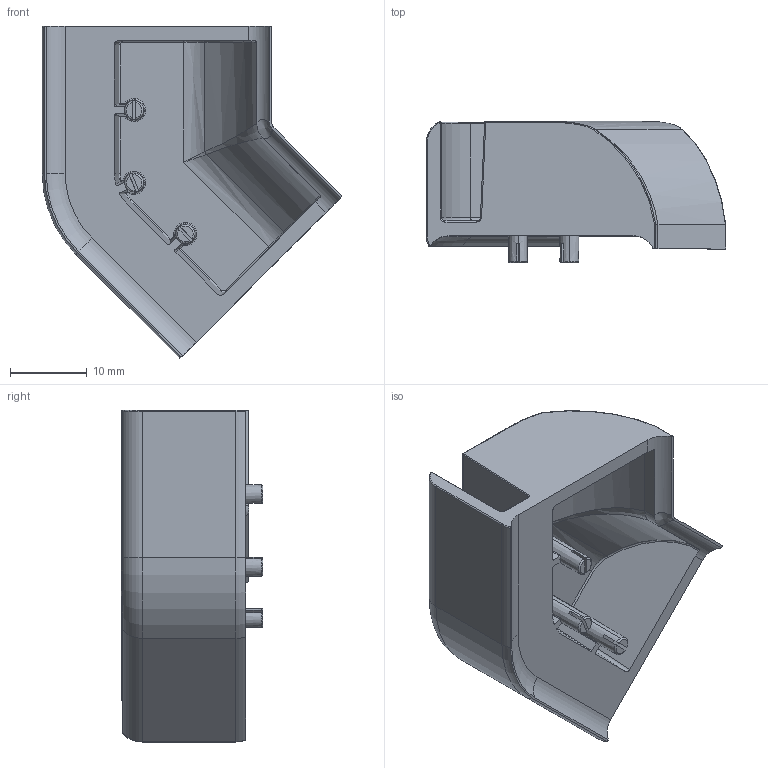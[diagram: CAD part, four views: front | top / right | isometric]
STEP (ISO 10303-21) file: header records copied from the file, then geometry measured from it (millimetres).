
FILE_DESCRIPTION (( 'STEP AP214' ), '1' );
FILE_NAME ('013.030.117.STEP', '2022-03-22T07:47:36', ( '' ), ( '' ), 'SwSTEP 2.0', 'SolidWorks 2021', '' );
FILE_SCHEMA (( 'AUTOMOTIVE_DESIGN' ));
Length unit declared in the file: millimetre
Products named in the file (1): 013.030.117
Bounding box: 39.15 x 18.5 x 43.39 mm (x, y, z)
Volume: 6385 mm3; surface area: 6693.1 mm2
Topology: 1 solids, 1 shells, 187 faces, 473 edges, 280 vertices
Faces by surface type: cylinder 59, plane 46, torus 38, bspline 29, cone 9, sphere 6
Entity records: 6654 total; most frequent: CARTESIAN_POINT 2329, ORIENTED_EDGE 930, DIRECTION 868, EDGE_CURVE 465, AXIS2_PLACEMENT_3D 352, VERTEX_POINT 280, CIRCLE 193, ADVANCED_FACE 187
